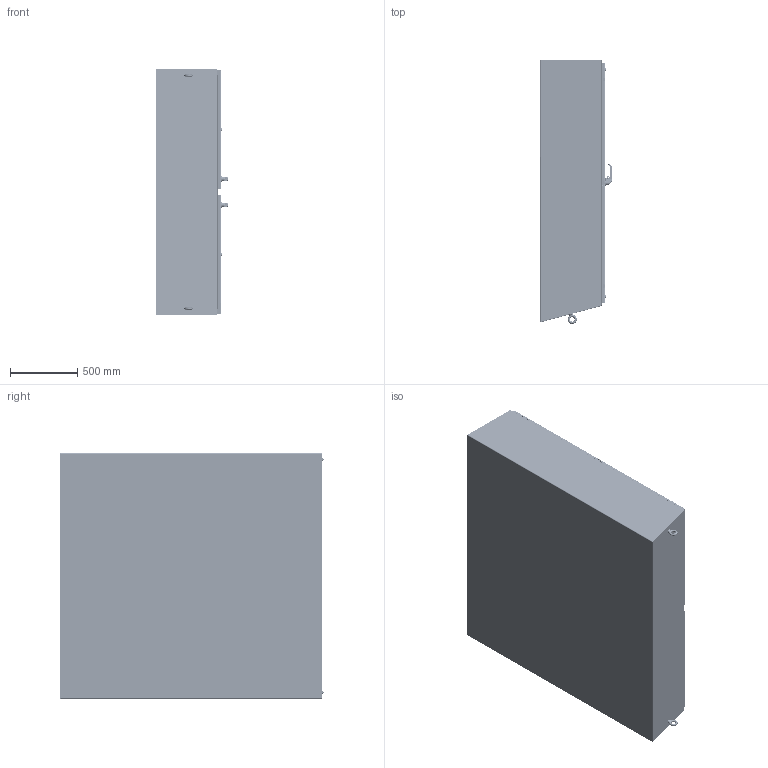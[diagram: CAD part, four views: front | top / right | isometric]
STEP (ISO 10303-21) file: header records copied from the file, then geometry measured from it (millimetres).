
FILE_DESCRIPTION((''),'2;1');
FILE_NAME('MODEL-150_ASM','2026-03-03T08:05:31',('johnh'),('SAGINAW CONTROL & ENGINEERING'),'CREO PARAMETRIC BY PTC INC, 2021284','CREO PARAMETRIC BY PTC INC, 2021284','');
FILE_SCHEMA(('AUTOMOTIVE_DESIGN { 1 0 10303 214 1 1 1 1 }'));
Length unit declared in the file: inch
Products named in the file (80): MODEL-150-BTM; MODEL-150-RS; MODEL-150-LS; MODEL-150-BCK; MODEL-150-TP; MODEL-150-RH-DR; 100837; 111267; 100882; 126937_HANDLE; 126937_HANDLE_INSERT; 126937_SHAFT_CAM; 126937_ADAPTER_CAM; 126937_NUT_CAM; 126937_BASE; 126937_PADLOCK_CATCH; 126937_SCREW_SMALL; 126937_NUT_MOUNTING_SMALL; 126937_NUT_MOUNTING_LARGE; 126937_ASM; 102236; 100030; 102236_ASM; MODEL-150-ROD-UPR-RH; 128146; 128145; 128144; 102482; MODEL-150-ROD-UPR-RH_ASM; 128143; 112504; MODEL-150-ROD-LWR-RH; MODEL-150-ROD-LWR-RH_ASM; MODEL-150-PR-GSKT-RH; 113885_SHAFT; 113885_INSERT; 113885_CAM_30MM; 113885_NUT; 113885_SCREW; 113885_ASM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
Assembly tree (196 placements, depth 4):
  MODEL-150_ASM
    MODEL-150-BTM
    MODEL-150-RS
    MODEL-150-LS
    MODEL-150-BCK
    MODEL-150-TP
    MODEL-150-RH-DOOR-ASSY_ASM
      MODEL-150-RH-DR
      100837  x5
      111267
      100882  x10
      126937_ASM
        126937_HANDLE
        126937_HANDLE_INSERT
        126937_SHAFT_CAM
        126937_ADAPTER_CAM
        126937_NUT_CAM
        126937_BASE
        126937_PADLOCK_CATCH
        126937_SCREW_SMALL
        126937_NUT_MOUNTING_SMALL
        126937_NUT_MOUNTING_LARGE
      102236_ASM
        102236
        100030  x2
      MODEL-150-ROD-UPR-RH_ASM
        MODEL-150-ROD-UPR-RH
        128146
        128145
        128144
        102482  x2
      128143  x2
      112504  x2
      MODEL-150-ROD-LWR-RH_ASM
        MODEL-150-ROD-LWR-RH
        128146
        128145
        128144
        102482  x2
      MODEL-150-PR-GSKT-RH
      113885_ASM  x2
        113885_SHAFT
        113885_INSERT
        113885_CAM_30MM
        113885_NUT
        113885_SCREW
      128258_ASM  x3
        128258
      126395  x3
      102483  x3
      101383_ASM  x3
        101383
        101383-STUD
      101221  x3
    MODEL-150-LH-DOOR-ASSY_ASM
      MODEL-150-LH-DR
      100837  x3
      126937_ASM
        126937_HANDLE
        126937_HANDLE_INSERT
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Bounding box: 534.57 x 1962.89 x 1828.8 mm (x, y, z)
Volume: 42566351.7 mm3; surface area: 30430408.1 mm2
Topology: 239 solids, 239 shells, 19424 faces, 49834 edges, 30954 vertices
Faces by surface type: plane 7235, cylinder 5145, bspline 4080, cone 1208, torus 1176, sphere 524, extrusion 56
Entity records: 314542 total; most frequent: CARTESIAN_POINT 103045, ORIENTED_EDGE 30248, DIRECTION 28446, PRESENTATION_STYLE_ASSIGNMENT 16523, STYLED_ITEM 15880, EDGE_CURVE 15124, CURVE_STYLE 14914, AXIS2_PLACEMENT_3D 10430
